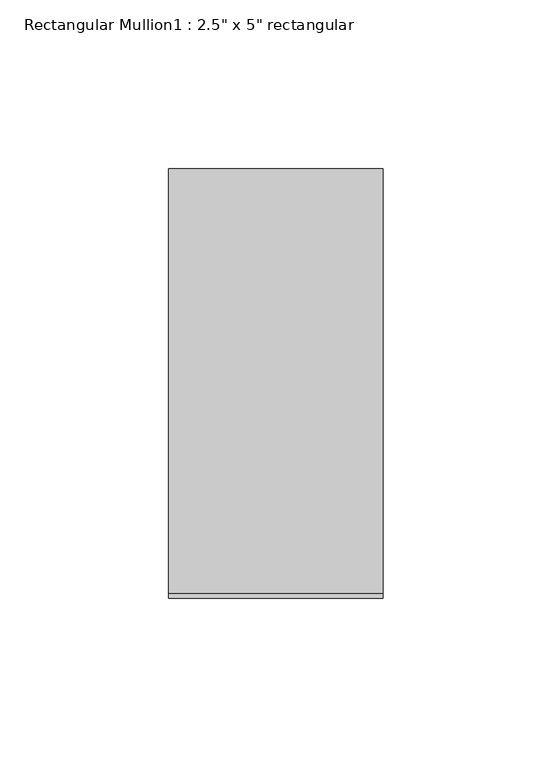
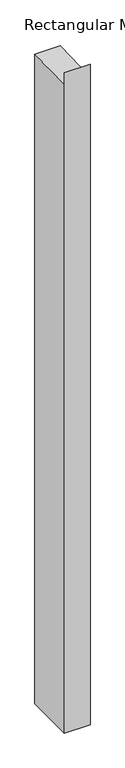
"""IFC4 building model written with IfcOpenShell, lengths in millimetres: member geometry."""

import ifcopenshell
import ifcopenshell.guid

model = None  # the IFC model being written
_history = None  # IfcOwnerHistory: only IFC2X3 demands one
_inside = {}  # id of a spatial element -> (the spatial element, [elements in it])
_under = {}  # id of a project, library or spatial element -> (it, [spatial elements below it])
_declared = {}  # id of a project -> (the project, [libraries it declares])
_typed = {}  # id of a type object -> (the type object, [elements of that type])
_made_of = {}  # id of a material, layer set ... -> (it, [elements and type objects made of it])


def new_model(schema):
    """Start an empty IFC model of exactly this schema.

    Asked for "IFC4X3", IfcOpenShell would pick the latest addendum, in which some entities
    have other attributes; the version numbers below select the first issue.
    IFC2X3 requires an IfcOwnerHistory on every rooted entity: one is made here for all.
    """
    global model, _history
    if schema == "IFC4X3":
        model = ifcopenshell.file(schema_version=(4, 3, 0, 0))
    else:
        model = ifcopenshell.file(schema=schema)
    _inside.clear()
    _under.clear()
    _declared.clear()
    _typed.clear()
    _made_of.clear()
    _history = None
    if model.schema == "IFC2X3":
        org = make("IfcOrganization", Name="unknown")
        user = make(
            "IfcPersonAndOrganization",
            ThePerson=make("IfcPerson", FamilyName="unknown"),
            TheOrganization=org,
        )
        app = make(
            "IfcApplication",
            ApplicationDeveloper=org,
            Version="unknown",
            ApplicationFullName="unknown",
            ApplicationIdentifier="unknown",
        )
        _history = make(
            "IfcOwnerHistory",
            OwningUser=user,
            OwningApplication=app,
            ChangeAction="ADDED",
            CreationDate=0,
        )
    return model


def make(cls, **values):
    """One entity of the class cls with the attributes given. An attribute that is None is left unset."""
    return model.create_entity(
        cls, **{name: value for name, value in values.items() if value is not None}
    )


def rooted(cls, **values):
    """An entity with a GlobalId (a new one), such as an element, a storey or a relation."""
    return make(cls, GlobalId=ifcopenshell.guid.new(), OwnerHistory=_history, **values)


def si_unit(unit_type, name, prefix=None):
    """IfcSIUnit, for example si_unit("LENGTHUNIT", "METRE", prefix="MILLI")."""
    return make("IfcSIUnit", UnitType=unit_type, Prefix=prefix, Name=name)


def assignment(units):
    """IfcUnitAssignment: the units of a project."""
    return None if units is None else make("IfcUnitAssignment", Units=units)


def point(xyz):
    """IfcCartesianPoint."""
    return None if xyz is None else make("IfcCartesianPoint", Coordinates=xyz)


def direction(xyz):
    """IfcDirection."""
    return None if xyz is None else make("IfcDirection", DirectionRatios=xyz)


def frame(location, z_axis=None, x_axis=None):
    """IfcAxis2Placement3D, a coordinate frame: its origin and axes. An axis left out is left unset."""
    return make(
        "IfcAxis2Placement3D",
        Location=point(location),
        Axis=direction(z_axis),
        RefDirection=direction(x_axis),
    )


def origin():
    """The frame at (0, 0, 0) with its axes left unset."""
    return frame((0.0, 0.0, 0.0))


def place(relative_to, where):
    """IfcLocalPlacement: puts the frame where relative to a parent placement (None: the world)."""
    return make(
        "IfcLocalPlacement", PlacementRelTo=relative_to, RelativePlacement=where
    )


def context(
    kind, dimensions, precision=None, world=None, true_north=None, identifier=None
):
    """IfcGeometricRepresentationContext, for example the 3D "Model" context."""
    return make(
        "IfcGeometricRepresentationContext",
        ContextIdentifier=identifier,
        ContextType=kind,
        CoordinateSpaceDimension=dimensions,
        Precision=precision,
        WorldCoordinateSystem=world,
        TrueNorth=true_north,
    )


def project(units=None, contexts=None):
    """IfcProject with its units and contexts."""
    return rooted(
        "IfcProject",
        Name="project",
        RepresentationContexts=contexts,
        UnitsInContext=assignment(units),
    )


def spatial(cls, under=None, at=None, **own):
    """A site, building, storey or space (cls), placed at a placement, below another one or the project."""
    s = rooted(cls, ObjectPlacement=at, **own)
    if under is not None:
        _under.setdefault(under.id(), (under, []))[1].append(s)
    return s


def polyline(points):
    """IfcPolyline through the points."""
    return make("IfcPolyline", Points=[point(p) for p in points])


def outline(outer, holes=None, kind="AREA"):
    """IfcArbitraryClosedProfileDef: a profile drawn as a closed curve; with holes, ...WithVoids."""
    if holes is None:
        return make("IfcArbitraryClosedProfileDef", ProfileType=kind, OuterCurve=outer)
    return make(
        "IfcArbitraryProfileDefWithVoids",
        ProfileType=kind,
        OuterCurve=outer,
        InnerCurves=holes,
    )


def extrude(swept, where, along, depth):
    """IfcExtrudedAreaSolid: the profile swept, set in the frame where, extruded along a direction by depth."""
    return make(
        "IfcExtrudedAreaSolid",
        SweptArea=swept,
        Position=where,
        ExtrudedDirection=direction(along),
        Depth=depth,
    )


def shape(context_of_items, identifier, shape_type, items):
    """IfcShapeRepresentation: the items that make up one representation, for example the "Body"."""
    return make(
        "IfcShapeRepresentation",
        ContextOfItems=context_of_items,
        RepresentationIdentifier=identifier,
        RepresentationType=shape_type,
        Items=items,
    )


def source(mapping_origin, context_of_items, identifier, shape_type, items):
    """IfcRepresentationMap: a shape defined once, which mapped items show again and again."""
    return make(
        "IfcRepresentationMap",
        MappingOrigin=mapping_origin,
        MappedRepresentation=shape(context_of_items, identifier, shape_type, items),
    )


def transform(
    local_origin,
    x_axis=None,
    y_axis=None,
    z_axis=None,
    scale=None,
    scale2=None,
    scale3=None,
    uniform=True,
):
    """IfcCartesianTransformationOperator3D, or its non-uniform kind. x_axis, y_axis, z_axis: its Axis1, 2, 3."""
    if uniform:
        return make(
            "IfcCartesianTransformationOperator3D",
            Axis1=direction(x_axis),
            Axis2=direction(y_axis),
            LocalOrigin=point(local_origin),
            Scale=scale,
            Axis3=direction(z_axis),
        )
    return make(
        "IfcCartesianTransformationOperator3DnonUniform",
        Axis1=direction(x_axis),
        Axis2=direction(y_axis),
        LocalOrigin=point(local_origin),
        Scale=scale,
        Axis3=direction(z_axis),
        Scale2=scale2,
        Scale3=scale3,
    )


def mapped(mapping_source, mapping_target):
    """IfcMappedItem: shows the shape of a source again, moved by a transform."""
    return make(
        "IfcMappedItem", MappingSource=mapping_source, MappingTarget=mapping_target
    )


def made_of(thing, what):
    """Note that an element or type object is made of a material, layer set ...; save() writes the relation."""
    if what is not None:
        _made_of.setdefault(what.id(), (what, []))[1].append(thing)
    return thing


def element(
    cls,
    number,
    at=None,
    inside=None,
    cuts=None,
    type_object=None,
    material=None,
    context=None,
    identifier="Body",
    shape_type=None,
    held_by="IfcProductDefinitionShape",
    body=None,
    shapes=None,
    **own,
):
    """One element of the class cls, such as IfcWall. Its Tag is "e" and its number.

    at: its placement. inside: the storey or other place that contains it. cuts: it is an
    opening in that element (IfcRelVoidsElement). A single representation is given by context,
    identifier, shape_type and body (its items); several are given by shapes. held_by: the class
    of the entity that holds the representations. save() writes the other relations.
    """
    e = rooted(cls, Tag="e%d" % number, ObjectPlacement=at, **own)
    if body is not None:
        shapes = [shape(context, identifier, shape_type, body)]
    if shapes is not None:
        e.Representation = make(held_by, Representations=shapes)
    if inside is not None:
        _inside.setdefault(inside.id(), (inside, []))[1].append(e)
    if cuts is not None:
        rooted(
            "IfcRelVoidsElement", RelatingBuildingElement=cuts, RelatedOpeningElement=e
        )
    if type_object is not None:
        _typed.setdefault(type_object.id(), (type_object, []))[1].append(e)
    return made_of(e, material)


def aggregate(whole, parts):
    """IfcRelAggregates: a whole, such as a stair, and the parts it consists of."""
    return rooted("IfcRelAggregates", RelatingObject=whole, RelatedObjects=parts)


def save(model, path):
    """Write the relations noted so far, then the file.

    IfcRelAggregates (storeys below a building ...), IfcRelContainedInSpatialStructure (elements
    in a storey), IfcRelDefinesByType, IfcRelAssociatesMaterial and IfcRelDeclares: one each for
    every whole, place, type object, material and project.
    """
    for whole, parts in _under.values():
        aggregate(whole, parts)
    for where, things in _inside.values():
        rooted(
            "IfcRelContainedInSpatialStructure",
            RelatedElements=things,
            RelatingStructure=where,
        )
    for kind, things in _typed.values():
        rooted("IfcRelDefinesByType", RelatedObjects=things, RelatingType=kind)
    for what, things in _made_of.values():
        rooted("IfcRelAssociatesMaterial", RelatedObjects=things, RelatingMaterial=what)
    for by, libraries in _declared.values():
        rooted("IfcRelDeclares", RelatingContext=by, RelatedDefinitions=libraries)
    model.write(path)


def member_78ef575d(model_context):
    return source(origin(), model_context, "Body", "SweptSolid", [
        extrude(outline(polyline([(-63.5, 30.4964474), (-62.1974623, -2.4813918), (63.5, 2.4833266), (63.5, -1702.5398307), (-63.5, -1702.5398307), (-63.5, 30.4964474)])), frame((-63.5, 0.0, 0.0), z_axis=(1.0, 0.0, 0.0), x_axis=(0.0, 1.0, 0.0)), (0.0, 0.0, 1.0), 63.5),
    ])


if __name__ == "__main__":
    model = new_model("IFC4")
    model_context = context("Model", 3, world=origin())
    ifc_project = project(units=[si_unit("LENGTHUNIT", "METRE", prefix="MILLI")], contexts=[model_context])
    site = spatial("IfcSite", under=ifc_project)
    building = spatial("IfcBuilding", under=site)
    placement = place(None, origin())
    member_shape = member_78ef575d(model_context)
    element("IfcMember", 1, ObjectType="Rectangular Mullion1 : 2.5\" x 5\" rectangular", at=placement, inside=building, context=model_context, shape_type="MappedRepresentation", body=[
        mapped(member_shape, transform((0.0, 0.0, 0.0), x_axis=(1.0, 0.0, 0.0), y_axis=(0.0, 1.0, 0.0), z_axis=(0.0, 0.0, 1.0))),
    ])
    save(model, "model.ifc")
